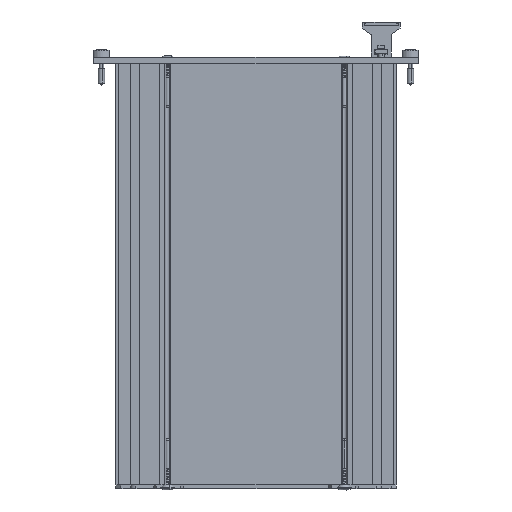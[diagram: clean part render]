
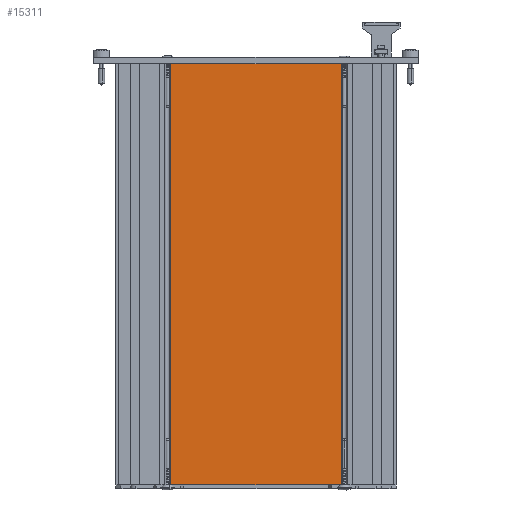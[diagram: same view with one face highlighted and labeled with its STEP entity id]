
A CAD part, left-side view. The second image highlights one B-rep face of the part: STEP entity #15311.
In plain terms, the highlighted planar face has unit normal (-1, 0, 0) as drawn and (0, 1, 0) by its records, which use the part's own axes.
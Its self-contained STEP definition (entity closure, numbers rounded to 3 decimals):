
#919 = CARTESIAN_POINT ( 'NONE',  ( 2731.062, 1924.192, -83.5 ) ) ;
#3284 = CARTESIAN_POINT ( 'NONE',  ( 2663.589, 1924.192, 83.5 ) ) ;
#3834 = EDGE_CURVE ( 'NONE', #5364, #11615, #9529, .T. ) ;
#4258 = EDGE_CURVE ( 'NONE', #10978, #12199, #17358, .T. ) ;
#4525 = FACE_OUTER_BOUND ( 'NONE', #10518, .T. ) ;
#5364 = VERTEX_POINT ( 'NONE', #13907 ) ;
#5616 = VECTOR ( 'NONE', #22072, 1000. ) ;
#6355 = EDGE_CURVE ( 'NONE', #5364, #10978, #15390, .T. ) ;
#8892 = ORIENTED_EDGE ( 'NONE', *, *, #3834, .F. ) ;
#9099 = LINE ( 'NONE', #12498, #10537 ) ;
#9124 = DIRECTION ( 'NONE',  ( 0., 0., -1. ) ) ;
#9529 = LINE ( 'NONE', #14854, #5616 ) ;
#10439 = DIRECTION ( 'NONE',  ( 0., 0., -1. ) ) ;
#10518 = EDGE_LOOP ( 'NONE', ( #15820, #16288, #8892, #17075 ) ) ;
#10537 = VECTOR ( 'NONE', #19466, 1000. ) ;
#10625 = VECTOR ( 'NONE', #9124, 1000. ) ;
#10884 = VECTOR ( 'NONE', #14453, 1000. ) ;
#10928 = CARTESIAN_POINT ( 'NONE',  ( 2731.062, 1924.192, -83.5 ) ) ;
#10978 = VERTEX_POINT ( 'NONE', #919 ) ;
#11615 = VERTEX_POINT ( 'NONE', #3284 ) ;
#11698 = CARTESIAN_POINT ( 'NONE',  ( 2663.589, 1924.192, -83.5 ) ) ;
#12199 = VERTEX_POINT ( 'NONE', #11698 ) ;
#12498 = CARTESIAN_POINT ( 'NONE',  ( 2663.589, 1924.192, 83.5 ) ) ;
#13907 = CARTESIAN_POINT ( 'NONE',  ( 2731.062, 1924.192, 83.5 ) ) ;
#14445 = CARTESIAN_POINT ( 'NONE',  ( 2731.062, 1924.192, 83.5 ) ) ;
#14453 = DIRECTION ( 'NONE',  ( -1., 0., 0. ) ) ;
#14854 = CARTESIAN_POINT ( 'NONE',  ( 2731.062, 1924.192, 83.5 ) ) ;
#15311 = ADVANCED_FACE ( 'NONE', ( #4525 ), #15597, .F. ) ;
#15390 = LINE ( 'NONE', #14445, #10625 ) ;
#15419 = AXIS2_PLACEMENT_3D ( 'NONE', #21147, #17702, #10439 ) ;
#15597 = PLANE ( 'NONE',  #15419 ) ;
#15820 = ORIENTED_EDGE ( 'NONE', *, *, #4258, .T. ) ;
#16288 = ORIENTED_EDGE ( 'NONE', *, *, #18277, .F. ) ;
#17075 = ORIENTED_EDGE ( 'NONE', *, *, #6355, .T. ) ;
#17358 = LINE ( 'NONE', #10928, #10884 ) ;
#17702 = DIRECTION ( 'NONE',  ( 0., -1., 0. ) ) ;
#18277 = EDGE_CURVE ( 'NONE', #11615, #12199, #9099, .T. ) ;
#19466 = DIRECTION ( 'NONE',  ( 0., 0., -1. ) ) ;
#21147 = CARTESIAN_POINT ( 'NONE',  ( 2731.062, 1924.192, 83.5 ) ) ;
#22072 = DIRECTION ( 'NONE',  ( -1., 0., 0. ) ) ;
